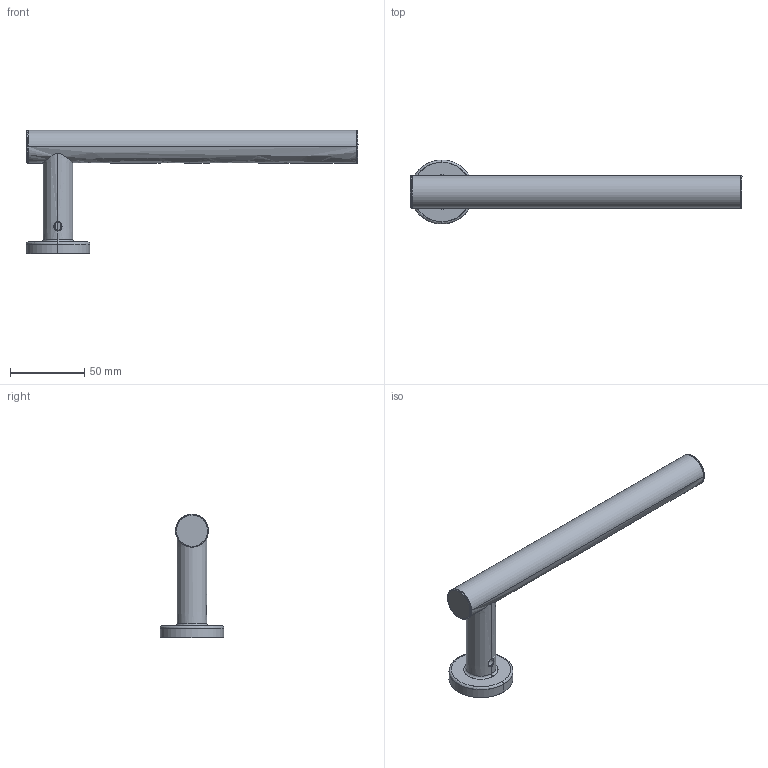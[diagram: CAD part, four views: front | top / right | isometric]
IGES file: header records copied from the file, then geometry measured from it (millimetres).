
Start section: SolidWorks IGES file using analytic representation for surfaces
Global section: file name: G:\Projects\New project\For Marketing\IGS\IGS\2050167VW.IGS; native system: SolidWorks 2010; preprocessor: SolidWorks 2010; author: linda; date: 151008.153025; units: millimetre
Bounding box: 223.5 x 43 x 83.13 mm (x, y, z)
Surface area: 26068.4 mm2 (no closed solid volume)
Topology: 0 solids, 0 shells, 78 faces, 1242 edges, 1242 vertices
Faces by surface type: bspline 40, revolution 38
